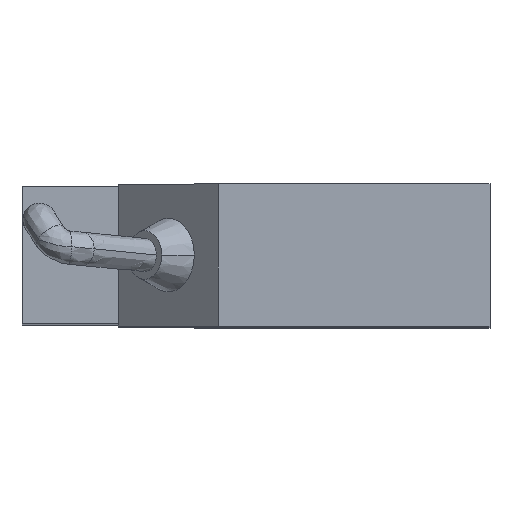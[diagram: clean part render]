
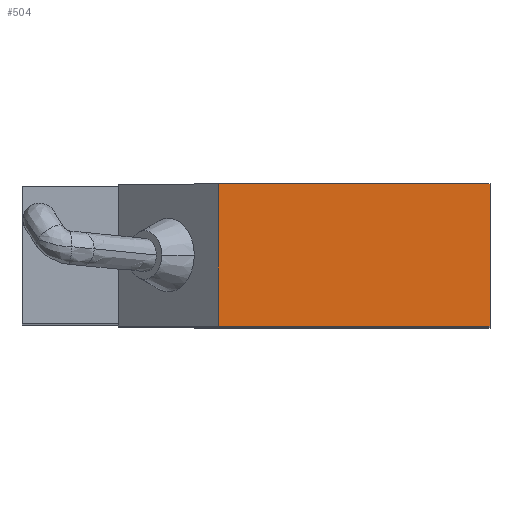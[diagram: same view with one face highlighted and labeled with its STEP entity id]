
A CAD part, top view. The second image highlights one B-rep face of the part: STEP entity #504.
In plain terms, the highlighted planar face has unit normal (0, 0, 1) as drawn and (0, 0, -1) by its records, which use the part's own axes.
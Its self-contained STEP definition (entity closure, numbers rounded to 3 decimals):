
#273 = VERTEX_POINT ( 'NONE', #1465 ) ;
#275 = EDGE_CURVE ( 'NONE', #276, #273, #1464, .T. ) ;
#276 = VERTEX_POINT ( 'NONE', #1460 ) ;
#504 = ADVANCED_FACE ( 'NONE', ( #1627 ), #1625, .F. ) ;
#505 = EDGE_LOOP ( 'NONE', ( #506, #509, #510, #564 ) ) ;
#506 = ORIENTED_EDGE ( 'NONE', *, *, #507, .F. ) ;
#507 = EDGE_CURVE ( 'NONE', #276, #508, #1925, .T. ) ;
#508 = VERTEX_POINT ( 'NONE', #1921 ) ;
#509 = ORIENTED_EDGE ( 'NONE', *, *, #275, .T. ) ;
#510 = ORIENTED_EDGE ( 'NONE', *, *, #511, .T. ) ;
#511 = EDGE_CURVE ( 'NONE', #273, #563, #1920, .T. ) ;
#563 = VERTEX_POINT ( 'NONE', #1990 ) ;
#564 = ORIENTED_EDGE ( 'NONE', *, *, #565, .F. ) ;
#565 = EDGE_CURVE ( 'NONE', #508, #563, #1989, .T. ) ;
#1460 = CARTESIAN_POINT ( 'NONE',  ( 8.5, -12.5, -69. ) ) ;
#1461 = DIRECTION ( 'NONE',  ( -1., 0., 0. ) ) ;
#1462 = VECTOR ( 'NONE', #1461, 1000. ) ;
#1463 = CARTESIAN_POINT ( 'NONE',  ( 8.5, -12.5, -69. ) ) ;
#1464 = LINE ( 'NONE', #1463, #1462 ) ;
#1465 = CARTESIAN_POINT ( 'NONE',  ( -8.5, -12.5, -69. ) ) ;
#1623 = CARTESIAN_POINT ( 'NONE',  ( 8.5, -24.5, -69. ) ) ;
#1624 = AXIS2_PLACEMENT_3D ( 'NONE', #1623, #1864, #1926 ) ;
#1625 = PLANE ( 'NONE',  #1624 ) ;
#1627 = FACE_OUTER_BOUND ( 'NONE', #505, .T. ) ;
#1864 = DIRECTION ( 'NONE',  ( 0., 0., 1. ) ) ;
#1917 = DIRECTION ( 'NONE',  ( 0., 1., 0. ) ) ;
#1918 = VECTOR ( 'NONE', #1917, 1000. ) ;
#1919 = CARTESIAN_POINT ( 'NONE',  ( -8.5, -24.5, -69. ) ) ;
#1920 = LINE ( 'NONE', #1919, #1918 ) ;
#1921 = CARTESIAN_POINT ( 'NONE',  ( 8.5, 20., -69. ) ) ;
#1922 = DIRECTION ( 'NONE',  ( 0., 1., 0. ) ) ;
#1923 = VECTOR ( 'NONE', #1922, 1000. ) ;
#1924 = CARTESIAN_POINT ( 'NONE',  ( 8.5, -24.5, -69. ) ) ;
#1925 = LINE ( 'NONE', #1924, #1923 ) ;
#1926 = DIRECTION ( 'NONE',  ( 1., 0., 0. ) ) ;
#1986 = DIRECTION ( 'NONE',  ( -1., 0., 0. ) ) ;
#1987 = VECTOR ( 'NONE', #1986, 1000. ) ;
#1988 = CARTESIAN_POINT ( 'NONE',  ( 8.5, 20., -69. ) ) ;
#1989 = LINE ( 'NONE', #1988, #1987 ) ;
#1990 = CARTESIAN_POINT ( 'NONE',  ( -8.5, 20., -69. ) ) ;
